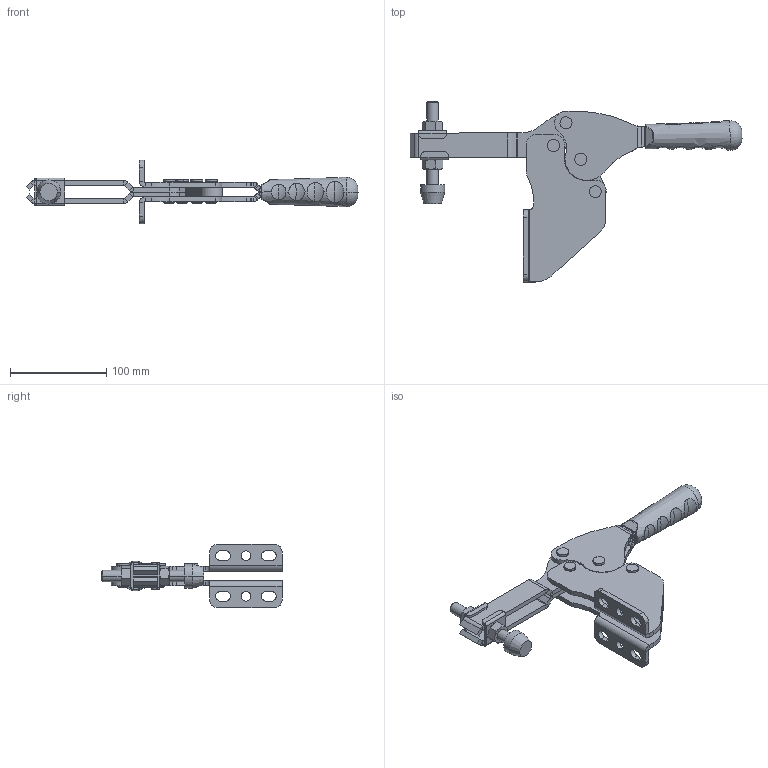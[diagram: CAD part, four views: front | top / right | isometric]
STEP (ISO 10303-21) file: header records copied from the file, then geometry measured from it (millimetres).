
FILE_DESCRIPTION (( 'STEP AP203' ), '1' );
FILE_NAME ('1265_A_MONTAJ.STEP', '2022-04-26T14:14:08', ( '' ), ( '' ), 'SwSTEP 2.0', 'SolidWorks 2020', '' );
FILE_SCHEMA (( 'CONFIG_CONTROL_DESIGN' ));
Length unit declared in the file: millimetre
Products named in the file (14): Aynalama1265 A gövde; Aynalama1265_HAREKET_KOLU; 1265_A_MONTAJ; Baský M12; 1265_BASKI_KOLU; 8x25_PERﾇﾝN; C100_Yeni_Tutamak_10x20; 1265_HAREKET_KOLU; 1265_MAFSAL; Aynalama1265_BASKI_KOLU; 1265 A gövde; M12 Somun; M12 Aský; M12_BASKI_GRUBU^1265_Y_D_MONTAJ
Assembly tree (18 placements, depth 3):
  1265_A_MONTAJ
    1265_BASKI_KOLU
    1265_HAREKET_KOLU
    1265_MAFSAL
    Aynalama1265_BASKI_KOLU
    Aynalama1265_HAREKET_KOLU
    8x25_PERﾇﾝN  x4
    M12_BASKI_GRUBU^1265_Y_D_MONTAJ
      M12 Aský  x2
      Baský M12
      M12 Somun  x2
    C100_Yeni_Tutamak_10x20
    1265 A gövde
    Aynalama1265 A gövde
Bounding box: 345.07 x 187.11 x 66 mm (x, y, z)
Volume: 291630.5 mm3; surface area: 136766.5 mm2
Topology: 17 solids, 17 shells, 739 faces, 1836 edges, 1150 vertices
Faces by surface type: plane 424, cylinder 239, torus 34, cone 26, bspline 16
Entity records: 18805 total; most frequent: CARTESIAN_POINT 4492, DIRECTION 2674, ORIENTED_EDGE 2628, EDGE_CURVE 1314, AXIS2_PLACEMENT_3D 940, VERTEX_POINT 826, LINE 794, VECTOR 794
